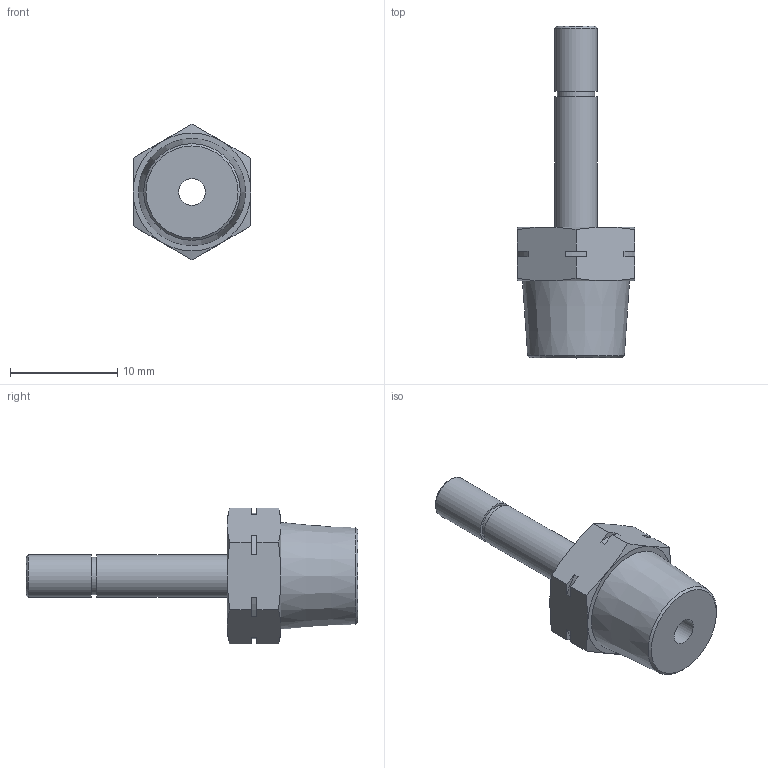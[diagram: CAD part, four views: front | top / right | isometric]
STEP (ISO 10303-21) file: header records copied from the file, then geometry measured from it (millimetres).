
FILE_DESCRIPTION(/* description */ (''),/* implementation_level */ '2;1');
FILE_NAME(/* name */ 'LXH15 0004 N1.stp',/* time_stamp */ '2026-04-28T16:07:15+02:00',/* author */ ('freju'),/* organization */ (''),/* preprocessor_version */ 'ST-DEVELOPER v20.1',/* originating_system */ 'Autodesk Inventor 2026',/* authorisation */ '');
FILE_SCHEMA (('AUTOMOTIVE_DESIGN { 1 0 10303 214 3 1 1 }'));
Length unit declared in the file: millimetre
Products named in the file (1): LXH15 0004 B1
Bounding box: 11 x 31 x 12.7 mm (x, y, z)
Volume: 1113.9 mm3; surface area: 1070.9 mm2
Topology: 1 solids, 1 shells, 49 faces, 117 edges, 74 vertices
Faces by surface type: plane 24, cone 15, cylinder 10
Full cylindrical faces by diameter (mm): 2.5 x1, 3.5 x1, 4 x2
Entity records: 1436 total; most frequent: CARTESIAN_POINT 289, ORIENTED_EDGE 234, DIRECTION 231, EDGE_CURVE 117, AXIS2_PLACEMENT_3D 88, VERTEX_POINT 74, EDGE_LOOP 55, LINE 55
